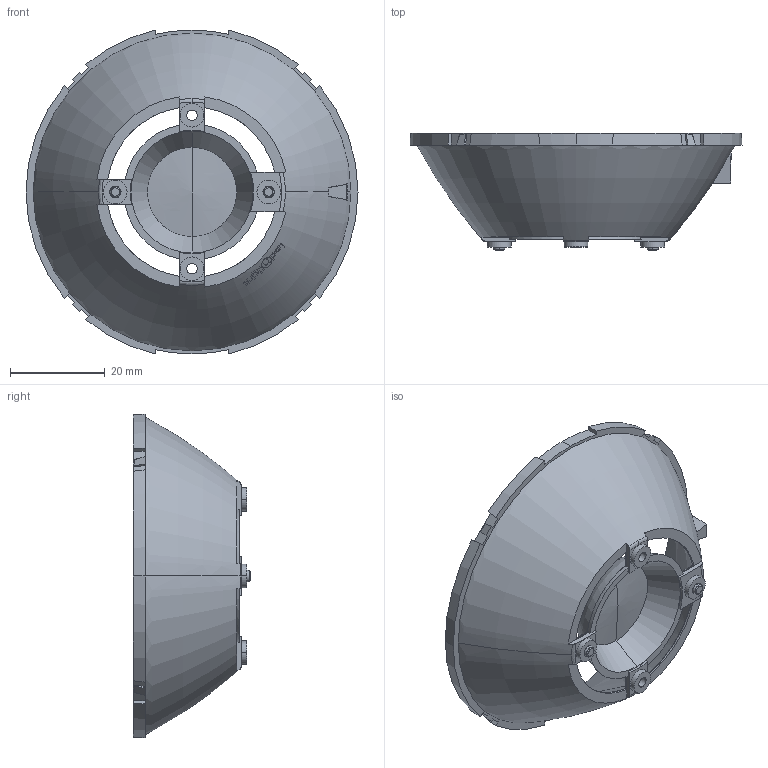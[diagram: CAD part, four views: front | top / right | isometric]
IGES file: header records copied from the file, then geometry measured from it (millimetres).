
Start section: 3D InterOp IGES (Version 22 0 2), Spatial Corp. Copyright (c) 1999-2007.
Global section: file name: LLR05N11AC0.igs; native system: Spatial Corp.; preprocessor: 3D InterOp GENERIC/IGES 3.0; author: Noname; organization: Noname; date: 20121128.165119; units: millimetre
Bounding box: 69.91 x 24.72 x 68.22 mm (x, y, z)
Surface area: 12034.5 mm2 (no closed solid volume)
Topology: 0 solids, 0 shells, 353 faces, 1952 edges, 1950 vertices
Faces by surface type: revolution 177, extrusion 172, bspline 4
